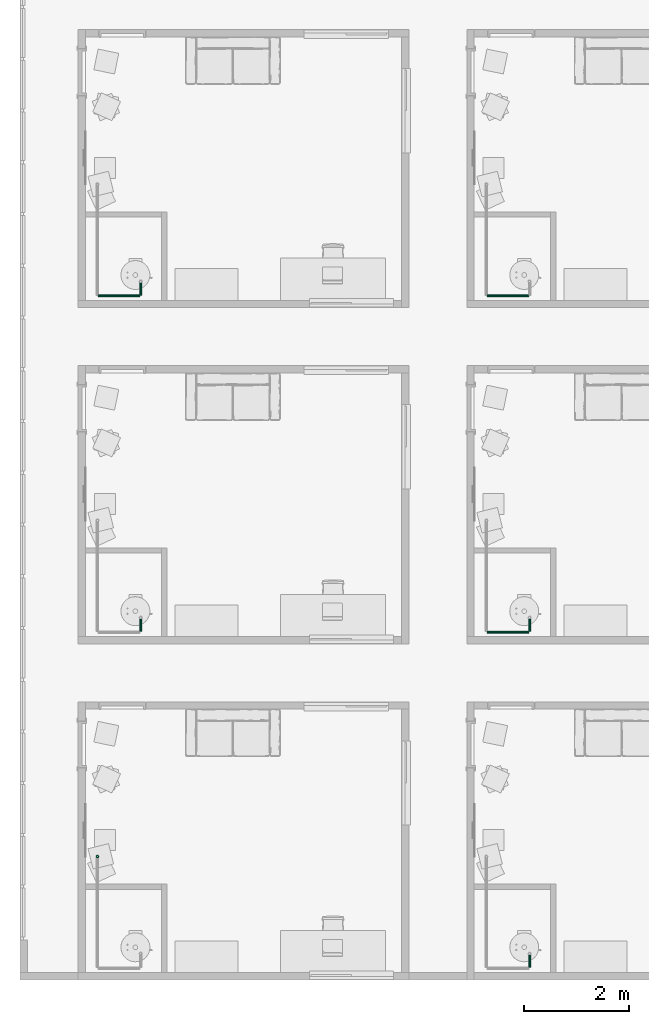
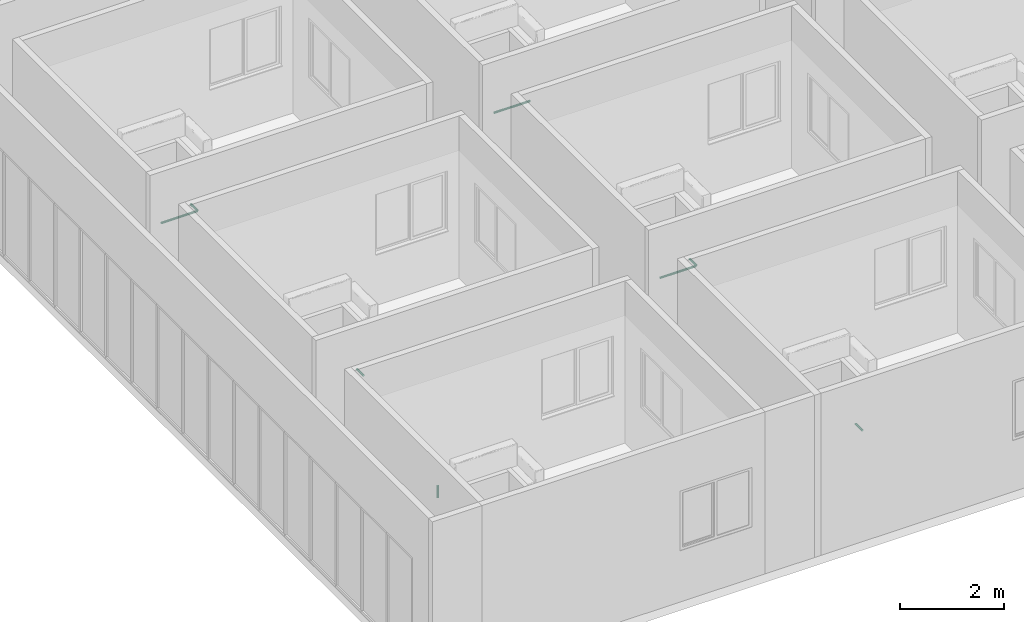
# One storey, part 39 of 69: 8 pipe segments.
"""IFC4 building model written with IfcOpenShell, lengths in centimetres."""

from ifc_helpers import new_model, entity, si_unit, converted_unit, derived_unit, direction, frame, origin, place, context, subcontext, project, spatial, arc, indexed_curve, outline, extrude, type_object, element, save


model = new_model("IFC4")

# Units and contexts
model_context = context("Model", 3, precision=0.001, world=origin(), true_north=direction((6.123233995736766e-17, 1.0)))
body_context = subcontext(model_context, "Body", "Model", "MODEL_VIEW")
ifc_project = project(units=[si_unit("LENGTHUNIT", "METRE", prefix="CENTI"), si_unit("AREAUNIT", "SQUARE_METRE"), si_unit("VOLUMEUNIT", "CUBIC_METRE"), derived_unit("THERMALTRANSMITTANCEUNIT", [(si_unit("MASSUNIT", "GRAM", prefix="KILO"), 1), (si_unit("THERMODYNAMICTEMPERATUREUNIT", "KELVIN"), -1), (si_unit("TIMEUNIT", "SECOND"), -3)]), converted_unit("PLANEANGLEUNIT", "DEGREE", entity("IfcPlaneAngleMeasure", 0.017453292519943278), si_unit("PLANEANGLEUNIT", "RADIAN"), dimensions=[0, 0, 0, 0, 0, 0, 0]), derived_unit("MASSDENSITYUNIT", [(si_unit("MASSUNIT", "GRAM", prefix="KILO"), 1), (si_unit("LENGTHUNIT", "METRE"), -3)]), derived_unit("VAPORPERMEABILITYUNIT", [(si_unit("LENGTHUNIT", "METRE"), -1), (si_unit("TIMEUNIT", "SECOND"), 1)]), derived_unit("USERDEFINED", [(si_unit("MASSUNIT", "GRAM", prefix="KILO"), 1), (si_unit("TIMEUNIT", "SECOND"), -3), (si_unit("LENGTHUNIT", "METRE"), 3), (si_unit("ELECTRICCURRENTUNIT", "AMPERE"), -2)]), derived_unit("SPECIFICHEATCAPACITYUNIT", [(si_unit("THERMODYNAMICTEMPERATUREUNIT", "KELVIN"), -1), (si_unit("LENGTHUNIT", "METRE"), 2), (si_unit("TIMEUNIT", "SECOND"), -2)]), derived_unit("THERMALCONDUCTANCEUNIT", [(si_unit("MASSUNIT", "GRAM", prefix="KILO"), 1), (si_unit("THERMODYNAMICTEMPERATUREUNIT", "KELVIN"), -1), (si_unit("TIMEUNIT", "SECOND"), -3), (si_unit("LENGTHUNIT", "METRE"), 1)]), si_unit("PRESSUREUNIT", "PASCAL"), derived_unit("MODULUSOFELASTICITYUNIT", [(si_unit("MASSUNIT", "GRAM", prefix="KILO"), 1), (si_unit("LENGTHUNIT", "METRE"), -1), (si_unit("TIMEUNIT", "SECOND"), -2)]), derived_unit("THERMALEXPANSIONCOEFFICIENTUNIT", [(si_unit("THERMODYNAMICTEMPERATUREUNIT", "KELVIN"), -1)])], contexts=[model_context])

# Site, building, storey
site_placement = place(None, origin())
site = spatial("IfcSite", under=ifc_project, at=site_placement, Name="Default", CompositionType="ELEMENT")
building_placement = place(site_placement, origin())
building = spatial("IfcBuilding", under=site, at=building_placement, Name="IDS Escape Game Building", CompositionType="ELEMENT")
storey_placement = place(building_placement, origin())
storey = spatial("IfcBuildingStorey", under=building, at=storey_placement, Name="00_Ground Floor", CompositionType="ELEMENT", Elevation=0.0)

# Pipe segments
pipe_segment_type = type_object("IfcPipeSegmentType", Name="Pipe Types:Piping Aluminum", PredefinedType="NOTDEFINED")
pipe_segment_1_placement = place(storey_placement, origin())
element("IfcPipeSegment", 1, at=pipe_segment_1_placement, inside=storey, type_object=pipe_segment_type, Name="Pipe Types:Piping Aluminum", ObjectType="Pipe Types:Piping Aluminum", PredefinedType="NOTDEFINED", context=body_context, shape_type="SweptSolid", body=[
    extrude(outline(indexed_curve([(2.4130000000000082, -2.7071678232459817e-14), (1.706248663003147, 1.7062486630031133), (-3.383959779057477e-15, 2.412999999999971), (-1.7062486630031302, 1.7062486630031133), (-2.412999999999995, 0.0), (-1.7062486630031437, -1.7062486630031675), (-6.767919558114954e-15, -2.413000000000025), (1.7062486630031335, -1.7062486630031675)], segments=[arc(1, 2, 3), arc(3, 4, 5), arc(5, 6, 7), arc(7, 8, 1)], self_intersect=False)), frame((30.046716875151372, 233.26482792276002, 244.0999999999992), z_axis=(0.0, 0.0, 1.0), x_axis=(-1.0, 0.0, 0.0)), (0.0, 0.0, 1.0), 27.90000000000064),
])
pipe_segment_2_placement = place(storey_placement, origin())
element("IfcPipeSegment", 2, at=pipe_segment_2_placement, inside=storey, type_object=pipe_segment_type, Name="Pipe Types:Piping Aluminum", ObjectType="Pipe Types:Piping Aluminum", PredefinedType="NOTDEFINED", context=body_context, shape_type="SweptSolid", body=[
    extrude(outline(indexed_curve([(2.4129999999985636, -2.7071678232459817e-14), (1.7062486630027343, 1.7062486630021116), (1.4077272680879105e-12, 2.412999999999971), (-1.7062486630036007, 1.706248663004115), (-2.4130000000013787, -2.7071678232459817e-14), (-1.7062486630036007, -1.706248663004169), (1.4077272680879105e-12, -2.413000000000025), (1.7062486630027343, -1.706248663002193)], segments=[arc(1, 2, 3), arc(3, 4, 5), arc(5, 6, 7), arc(7, 8, 1)], self_intersect=False)), frame((850.1500000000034, 22.36482792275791, 242.0), z_axis=(0.0, 1.0, 0.0), x_axis=(-1.0, 0.0, 0.0)), (0.0, 0.0, 1.0), 25.435172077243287),
])
pipe_segment_3_placement = place(storey_placement, origin())
element("IfcPipeSegment", 3, at=pipe_segment_3_placement, inside=storey, type_object=pipe_segment_type, Name="Pipe Types:Piping Aluminum", ObjectType="Pipe Types:Piping Aluminum", PredefinedType="NOTDEFINED", context=body_context, shape_type="SweptSolid", body=[
    extrude(outline(indexed_curve([(2.412999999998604, -2.7071678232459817e-14), (1.7062486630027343, 1.7062486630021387), (1.3941914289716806e-12, 2.412999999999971), (-1.7062486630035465, 1.7062486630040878), (-2.4130000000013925, -2.7071678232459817e-14), (-1.70624866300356, -1.706248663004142), (1.3806555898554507e-12, -2.413000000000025), (1.7062486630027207, -1.706248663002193)], segments=[arc(1, 2, 3), arc(3, 4, 5), arc(5, 6, 7), arc(7, 8, 1)], self_intersect=False)), frame((112.15000000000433, 660.3648279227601, 242.0), z_axis=(0.0, 1.0, 0.0), x_axis=(-1.0, 0.0, 0.0)), (0.0, 0.0, 1.0), 25.43517207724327),
])
pipe_segment_4_placement = place(storey_placement, origin())
element("IfcPipeSegment", 4, at=pipe_segment_4_placement, inside=storey, type_object=pipe_segment_type, Name="Pipe Types:Piping Aluminum", ObjectType="Pipe Types:Piping Aluminum", PredefinedType="NOTDEFINED", context=body_context, shape_type="SweptSolid", body=[
    extrude(outline(indexed_curve([(2.4129999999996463, -2.165734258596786e-13), (1.7062486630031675, 1.7062486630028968), (4.331468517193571e-13, 2.4130000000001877), (-1.7062486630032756, 1.7062486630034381), (-2.413000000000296, -1.6243006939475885e-13), (-1.706248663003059, -1.7062486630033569), (4.3314685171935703e-13, -2.412999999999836), (1.7062486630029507, -1.7062486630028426)], segments=[arc(1, 2, 3), arc(3, 4, 5), arc(5, 6, 7), arc(7, 8, 1)], self_intersect=False)), frame((769.1467168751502, 659.2648279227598, 242.0), z_axis=(1.0, 0.0, 0.0), x_axis=(0.0, 1.0, 0.0)), (0.0, 0.0, 1.0), 79.90328312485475),
])
pipe_segment_5_placement = place(storey_placement, origin())
element("IfcPipeSegment", 5, at=pipe_segment_5_placement, inside=storey, type_object=pipe_segment_type, Name="Pipe Types:Piping Aluminum", ObjectType="Pipe Types:Piping Aluminum", PredefinedType="NOTDEFINED", context=body_context, shape_type="SweptSolid", body=[
    extrude(outline(indexed_curve([(2.4129999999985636, -2.7071678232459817e-14), (1.7062486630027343, 1.7062486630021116), (1.4077272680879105e-12, 2.412999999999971), (-1.7062486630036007, 1.706248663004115), (-2.4130000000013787, -2.7071678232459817e-14), (-1.7062486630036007, -1.706248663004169), (1.4077272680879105e-12, -2.413000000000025), (1.7062486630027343, -1.706248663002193)], segments=[arc(1, 2, 3), arc(3, 4, 5), arc(5, 6, 7), arc(7, 8, 1)], self_intersect=False)), frame((850.1500000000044, 660.3648279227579, 242.0), z_axis=(0.0, 1.0, 0.0), x_axis=(-1.0, 0.0, 0.0)), (0.0, 0.0, 1.0), 25.43517207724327),
])
pipe_segment_6_placement = place(storey_placement, origin())
element("IfcPipeSegment", 6, at=pipe_segment_6_placement, inside=storey, type_object=pipe_segment_type, Name="Pipe Types:Piping Aluminum", ObjectType="Pipe Types:Piping Aluminum", PredefinedType="NOTDEFINED", context=body_context, shape_type="SweptSolid", body=[
    extrude(outline(indexed_curve([(2.412999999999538, -2.165734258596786e-13), (1.7062486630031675, 1.7062486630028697), (4.331468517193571e-13, 2.4130000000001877), (-1.706248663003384, 1.7062486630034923), (-2.4130000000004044, -1.6243006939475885e-13), (-1.7062486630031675, -1.706248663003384), (4.3314685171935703e-13, -2.412999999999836), (1.7062486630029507, -1.7062486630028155)], segments=[arc(1, 2, 3), arc(3, 4, 5), arc(5, 6, 7), arc(7, 8, 1)], self_intersect=False)), frame((31.14671687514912, 1297.2648279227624, 242.0), z_axis=(1.0, 0.0, 0.0), x_axis=(0.0, 1.0, 0.0)), (0.0, 0.0, 1.0), 79.9032831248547),
])
pipe_segment_7_placement = place(storey_placement, origin())
element("IfcPipeSegment", 7, at=pipe_segment_7_placement, inside=storey, type_object=pipe_segment_type, Name="Pipe Types:Piping Aluminum", ObjectType="Pipe Types:Piping Aluminum", PredefinedType="NOTDEFINED", context=body_context, shape_type="SweptSolid", body=[
    extrude(outline(indexed_curve([(2.412999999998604, -2.7071678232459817e-14), (1.7062486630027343, 1.7062486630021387), (1.3941914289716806e-12, 2.412999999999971), (-1.7062486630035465, 1.7062486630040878), (-2.4130000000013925, -2.7071678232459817e-14), (-1.70624866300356, -1.706248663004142), (1.3806555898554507e-12, -2.413000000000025), (1.7062486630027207, -1.706248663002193)], segments=[arc(1, 2, 3), arc(3, 4, 5), arc(5, 6, 7), arc(7, 8, 1)], self_intersect=False)), frame((112.15000000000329, 1298.3648279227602, 242.0), z_axis=(0.0, 1.0, 0.0), x_axis=(-1.0, 0.0, 0.0)), (0.0, 0.0, 1.0), 25.43517207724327),
])
pipe_segment_8_placement = place(storey_placement, origin())
element("IfcPipeSegment", 8, at=pipe_segment_8_placement, inside=storey, type_object=pipe_segment_type, Name="Pipe Types:Piping Aluminum", ObjectType="Pipe Types:Piping Aluminum", PredefinedType="NOTDEFINED", context=body_context, shape_type="SweptSolid", body=[
    extrude(outline(indexed_curve([(2.412999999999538, -2.165734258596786e-13), (1.7062486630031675, 1.7062486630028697), (4.331468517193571e-13, 2.4130000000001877), (-1.706248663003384, 1.7062486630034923), (-2.4130000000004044, -1.6243006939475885e-13), (-1.7062486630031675, -1.706248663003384), (4.3314685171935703e-13, -2.412999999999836), (1.7062486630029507, -1.7062486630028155)], segments=[arc(1, 2, 3), arc(3, 4, 5), arc(5, 6, 7), arc(7, 8, 1)], self_intersect=False)), frame((769.1467168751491, 1297.26482792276, 242.0), z_axis=(1.0, 0.0, 0.0), x_axis=(0.0, 1.0, 0.0)), (0.0, 0.0, 1.0), 79.90328312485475),
])

save(model, "model.ifc")
